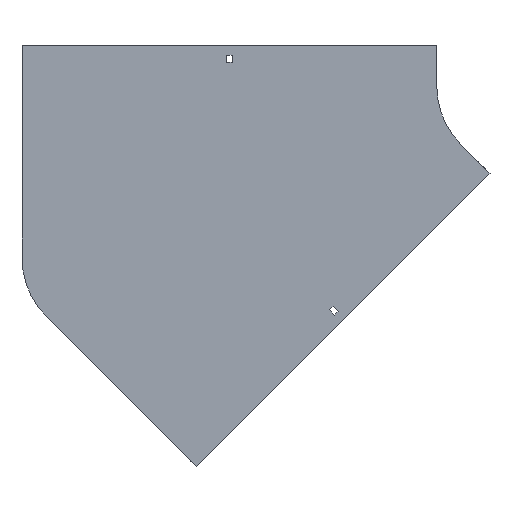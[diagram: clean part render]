
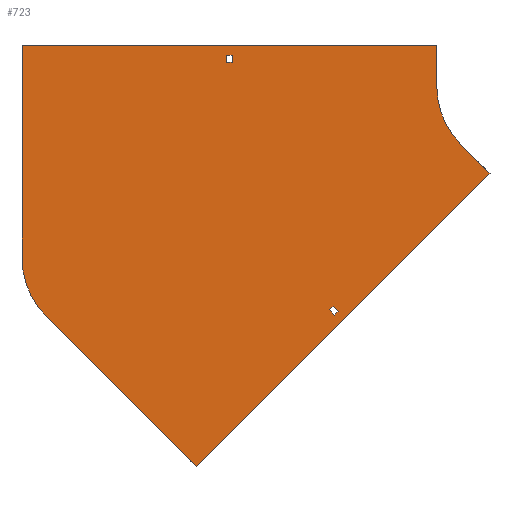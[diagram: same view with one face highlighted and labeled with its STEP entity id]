
A CAD part, front view. The second image highlights one B-rep face of the part: STEP entity #723.
In plain terms, the highlighted planar face has unit normal (0, -1, 0).
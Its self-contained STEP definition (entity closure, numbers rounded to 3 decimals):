
#16 = EDGE_CURVE ( 'NONE', #1061, #817, #868, .T. ) ;
#19 = VECTOR ( 'NONE', #43, 1000. ) ;
#21 = VECTOR ( 'NONE', #939, 1000. ) ;
#36 = LINE ( 'NONE', #366, #19 ) ;
#37 = AXIS2_PLACEMENT_3D ( 'NONE', #506, #173, #859 ) ;
#43 = DIRECTION ( 'NONE',  ( 0.707, 0., -0.707 ) ) ;
#49 = ORIENTED_EDGE ( 'NONE', *, *, #396, .T. ) ;
#50 = DIRECTION ( 'NONE',  ( 0., 0., 1. ) ) ;
#56 = VERTEX_POINT ( 'NONE', #334 ) ;
#75 = CARTESIAN_POINT ( 'NONE',  ( -391.737, 0., -462.448 ) ) ;
#76 = EDGE_LOOP ( 'NONE', ( #49, #186, #1112, #618 ) ) ;
#83 = CARTESIAN_POINT ( 'NONE',  ( -355.25, 0., 38. ) ) ;
#84 = ORIENTED_EDGE ( 'NONE', *, *, #146, .F. ) ;
#92 = DIRECTION ( 'NONE',  ( 0., 0., -1. ) ) ;
#99 = EDGE_LOOP ( 'NONE', ( #84, #736, #997, #508, #122, #1234, #804, #1368 ) ) ;
#113 = VERTEX_POINT ( 'NONE', #1201 ) ;
#116 = EDGE_CURVE ( 'NONE', #1393, #1110, #341, .T. ) ;
#122 = ORIENTED_EDGE ( 'NONE', *, *, #688, .F. ) ;
#135 = LINE ( 'NONE', #890, #1095 ) ;
#146 = EDGE_CURVE ( 'NONE', #56, #457, #460, .T. ) ;
#164 = EDGE_CURVE ( 'NONE', #386, #720, #36, .T. ) ;
#172 = DIRECTION ( 'NONE',  ( 0.707, 0., -0.707 ) ) ;
#173 = DIRECTION ( 'NONE',  ( 0., 1., 0. ) ) ;
#186 = ORIENTED_EDGE ( 'NONE', *, *, #1366, .T. ) ;
#190 = ORIENTED_EDGE ( 'NONE', *, *, #1390, .F. ) ;
#199 = VECTOR ( 'NONE', #92, 1000. ) ;
#204 = FACE_BOUND ( 'NONE', #76, .T. ) ;
#216 = VECTOR ( 'NONE', #790, 1000. ) ;
#280 = CARTESIAN_POINT ( 'NONE',  ( -574.711, 0., -279.474 ) ) ;
#287 = LINE ( 'NONE', #1261, #834 ) ;
#315 = DIRECTION ( 'NONE',  ( 1., 0., 0. ) ) ;
#321 = FACE_BOUND ( 'NONE', #691, .T. ) ;
#334 = CARTESIAN_POINT ( 'NONE',  ( -604., 0., 50. ) ) ;
#335 = CIRCLE ( 'NONE', #701, 100. ) ;
#341 = LINE ( 'NONE', #756, #557 ) ;
#360 = CARTESIAN_POINT ( 'NONE',  ( -224.33, 0., -278.07 ) ) ;
#366 = CARTESIAN_POINT ( 'NONE',  ( -70.711, 0., -70.711 ) ) ;
#379 = VERTEX_POINT ( 'NONE', #83 ) ;
#384 = ORIENTED_EDGE ( 'NONE', *, *, #116, .F. ) ;
#386 = VERTEX_POINT ( 'NONE', #1087 ) ;
#389 = LINE ( 'NONE', #1020, #400 ) ;
#396 = EDGE_CURVE ( 'NONE', #713, #379, #1166, .T. ) ;
#398 = CARTESIAN_POINT ( 'NONE',  ( -355.25, 0., 29. ) ) ;
#400 = VECTOR ( 'NONE', #172, 1000. ) ;
#404 = DIRECTION ( 'NONE',  ( -0.707, 0., 0.707 ) ) ;
#418 = DIRECTION ( 'NONE',  ( -0.707, 0., -0.707 ) ) ;
#457 = VERTEX_POINT ( 'NONE', #1224 ) ;
#460 = LINE ( 'NONE', #1294, #1339 ) ;
#474 = LINE ( 'NONE', #901, #1057 ) ;
#506 = CARTESIAN_POINT ( 'NONE',  ( -504., 0., -208.764 ) ) ;
#508 = ORIENTED_EDGE ( 'NONE', *, *, #608, .F. ) ;
#526 = EDGE_CURVE ( 'NONE', #1082, #713, #1159, .T. ) ;
#529 = DIRECTION ( 'NONE',  ( 0., 0., -1. ) ) ;
#535 = CARTESIAN_POINT ( 'NONE',  ( 0., 0., 0. ) ) ;
#538 = VERTEX_POINT ( 'NONE', #280 ) ;
#554 = DIRECTION ( 'NONE',  ( 0., -1., 0. ) ) ;
#557 = VECTOR ( 'NONE', #779, 1000. ) ;
#569 = DIRECTION ( 'NONE',  ( -0.707, 0., 0.707 ) ) ;
#608 = EDGE_CURVE ( 'NONE', #1387, #538, #1163, .T. ) ;
#614 = VECTOR ( 'NONE', #418, 1000. ) ;
#618 = ORIENTED_EDGE ( 'NONE', *, *, #526, .T. ) ;
#623 = EDGE_CURVE ( 'NONE', #113, #1082, #836, .T. ) ;
#655 = CARTESIAN_POINT ( 'NONE',  ( -35.355, 0., -106.066 ) ) ;
#660 = LINE ( 'NONE', #672, #216 ) ;
#672 = CARTESIAN_POINT ( 'NONE',  ( -355.25, 0., 38. ) ) ;
#688 = EDGE_CURVE ( 'NONE', #720, #1387, #1203, .T. ) ;
#691 = EDGE_LOOP ( 'NONE', ( #384, #1001, #840, #190 ) ) ;
#701 = AXIS2_PLACEMENT_3D ( 'NONE', #1089, #554, #1330 ) ;
#705 = CARTESIAN_POINT ( 'NONE',  ( -230.694, 0., -271.706 ) ) ;
#713 = VERTEX_POINT ( 'NONE', #1287 ) ;
#716 = VECTOR ( 'NONE', #773, 1000. ) ;
#720 = VERTEX_POINT ( 'NONE', #1078 ) ;
#723 = ADVANCED_FACE ( 'NONE', ( #204, #1302, #321 ), #965, .T. ) ;
#725 = DIRECTION ( 'NONE',  ( 0., 0., -1. ) ) ;
#734 = DIRECTION ( 'NONE',  ( -1., 0., 0. ) ) ;
#736 = ORIENTED_EDGE ( 'NONE', *, *, #1090, .F. ) ;
#756 = CARTESIAN_POINT ( 'NONE',  ( -224.33, 0., -278.07 ) ) ;
#773 = DIRECTION ( 'NONE',  ( -0.707, 0., -0.707 ) ) ;
#779 = DIRECTION ( 'NONE',  ( 0.707, 0., 0.707 ) ) ;
#790 = DIRECTION ( 'NONE',  ( 1., 0., 0. ) ) ;
#804 = ORIENTED_EDGE ( 'NONE', *, *, #1054, .F. ) ;
#817 = VERTEX_POINT ( 'NONE', #705 ) ;
#820 = CARTESIAN_POINT ( 'NONE',  ( -604., 0., -208.764 ) ) ;
#834 = VECTOR ( 'NONE', #725, 1000. ) ;
#836 = LINE ( 'NONE', #856, #199 ) ;
#840 = ORIENTED_EDGE ( 'NONE', *, *, #16, .F. ) ;
#856 = CARTESIAN_POINT ( 'NONE',  ( -348.75, 0., 29. ) ) ;
#859 = DIRECTION ( 'NONE',  ( 0., 0., 1. ) ) ;
#863 = DIRECTION ( 'NONE',  ( 0., -1., 0. ) ) ;
#868 = LINE ( 'NONE', #1091, #716 ) ;
#873 = CARTESIAN_POINT ( 'NONE',  ( -348.75, 0., 29. ) ) ;
#890 = CARTESIAN_POINT ( 'NONE',  ( -226.097, 0., -267.11 ) ) ;
#895 = EDGE_CURVE ( 'NONE', #457, #1308, #287, .T. ) ;
#901 = CARTESIAN_POINT ( 'NONE',  ( -604., 0., -208.764 ) ) ;
#921 = AXIS2_PLACEMENT_3D ( 'NONE', #535, #863, #529 ) ;
#939 = DIRECTION ( 'NONE',  ( 0., 0., 1. ) ) ;
#946 = EDGE_CURVE ( 'NONE', #538, #1124, #1122, .T. ) ;
#957 = CARTESIAN_POINT ( 'NONE',  ( -100., 0., 0. ) ) ;
#965 = PLANE ( 'NONE',  #921 ) ;
#991 = CARTESIAN_POINT ( 'NONE',  ( -226.097, 0., -267.11 ) ) ;
#997 = ORIENTED_EDGE ( 'NONE', *, *, #946, .F. ) ;
#1001 = ORIENTED_EDGE ( 'NONE', *, *, #1237, .F. ) ;
#1009 = CARTESIAN_POINT ( 'NONE',  ( -219.733, 0., -273.474 ) ) ;
#1020 = CARTESIAN_POINT ( 'NONE',  ( -230.694, 0., -271.706 ) ) ;
#1054 = EDGE_CURVE ( 'NONE', #1308, #386, #335, .T. ) ;
#1057 = VECTOR ( 'NONE', #50, 1000. ) ;
#1061 = VERTEX_POINT ( 'NONE', #991 ) ;
#1077 = VECTOR ( 'NONE', #734, 1000. ) ;
#1078 = CARTESIAN_POINT ( 'NONE',  ( -35.355, 0., -106.066 ) ) ;
#1082 = VERTEX_POINT ( 'NONE', #873 ) ;
#1087 = CARTESIAN_POINT ( 'NONE',  ( -70.711, 0., -70.711 ) ) ;
#1089 = CARTESIAN_POINT ( 'NONE',  ( 0., 0., 0. ) ) ;
#1090 = EDGE_CURVE ( 'NONE', #1124, #56, #474, .T. ) ;
#1091 = CARTESIAN_POINT ( 'NONE',  ( -230.694, 0., -271.706 ) ) ;
#1095 = VECTOR ( 'NONE', #569, 1000. ) ;
#1110 = VERTEX_POINT ( 'NONE', #1009 ) ;
#1112 = ORIENTED_EDGE ( 'NONE', *, *, #623, .T. ) ;
#1122 = CIRCLE ( 'NONE', #37, 100. ) ;
#1124 = VERTEX_POINT ( 'NONE', #820 ) ;
#1159 = LINE ( 'NONE', #398, #1077 ) ;
#1163 = LINE ( 'NONE', #75, #1365 ) ;
#1166 = LINE ( 'NONE', #1320, #21 ) ;
#1201 = CARTESIAN_POINT ( 'NONE',  ( -348.75, 0., 38. ) ) ;
#1203 = LINE ( 'NONE', #655, #614 ) ;
#1222 = CARTESIAN_POINT ( 'NONE',  ( -391.737, 0., -462.448 ) ) ;
#1224 = CARTESIAN_POINT ( 'NONE',  ( -100., 0., 50. ) ) ;
#1234 = ORIENTED_EDGE ( 'NONE', *, *, #164, .F. ) ;
#1237 = EDGE_CURVE ( 'NONE', #817, #1393, #389, .T. ) ;
#1261 = CARTESIAN_POINT ( 'NONE',  ( -100., 0., 50. ) ) ;
#1287 = CARTESIAN_POINT ( 'NONE',  ( -355.25, 0., 29. ) ) ;
#1294 = CARTESIAN_POINT ( 'NONE',  ( -604., 0., 50. ) ) ;
#1302 = FACE_OUTER_BOUND ( 'NONE', #99, .T. ) ;
#1308 = VERTEX_POINT ( 'NONE', #957 ) ;
#1320 = CARTESIAN_POINT ( 'NONE',  ( -355.25, 0., 29. ) ) ;
#1330 = DIRECTION ( 'NONE',  ( 0., 0., -1. ) ) ;
#1339 = VECTOR ( 'NONE', #315, 1000. ) ;
#1365 = VECTOR ( 'NONE', #404, 1000. ) ;
#1366 = EDGE_CURVE ( 'NONE', #379, #113, #660, .T. ) ;
#1368 = ORIENTED_EDGE ( 'NONE', *, *, #895, .F. ) ;
#1387 = VERTEX_POINT ( 'NONE', #1222 ) ;
#1390 = EDGE_CURVE ( 'NONE', #1110, #1061, #135, .T. ) ;
#1393 = VERTEX_POINT ( 'NONE', #360 ) ;
